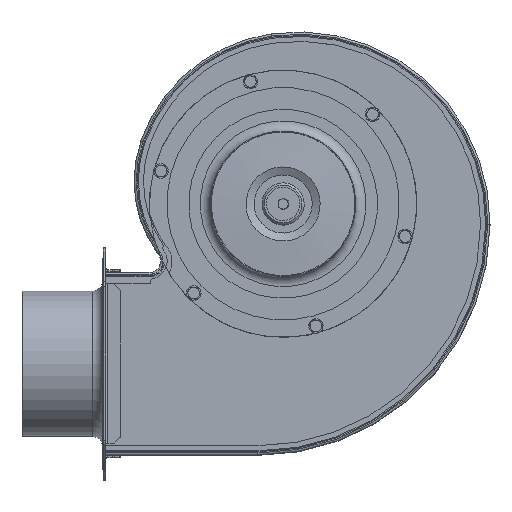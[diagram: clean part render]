
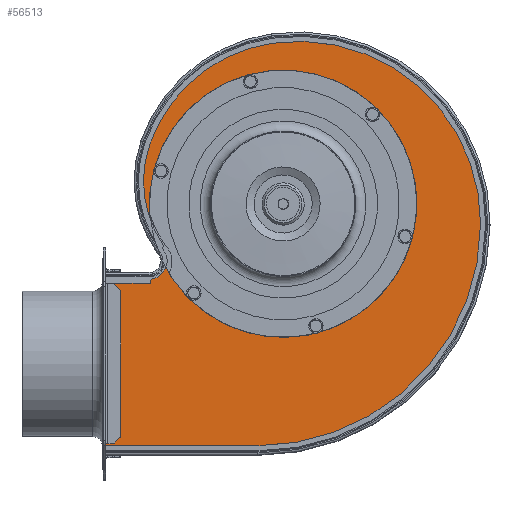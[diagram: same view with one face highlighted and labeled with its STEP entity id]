
A CAD part, top view. The second image highlights one B-rep face of the part: STEP entity #56513.
In plain terms, the highlighted planar face has unit normal (0, 0, 1).
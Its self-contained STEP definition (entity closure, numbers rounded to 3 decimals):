
#1753=LINE('',#83167,#5773);
#1757=LINE('',#83174,#5777);
#1760=LINE('',#83180,#5780);
#5773=VECTOR('',#66398,0.394);
#5777=VECTOR('',#66404,0.394);
#5780=VECTOR('',#66409,0.394);
#9794=PLANE('',#60013);
#11632=FACE_BOUND('',#16091,.T.);
#11633=FACE_BOUND('',#16092,.T.);
#11634=FACE_BOUND('',#16093,.T.);
#11635=FACE_BOUND('',#16094,.T.);
#11636=FACE_BOUND('',#16095,.T.);
#11637=FACE_BOUND('',#16096,.T.);
#11638=FACE_BOUND('',#16097,.T.);
#12738=FACE_OUTER_BOUND('',#16090,.T.);
#16090=EDGE_LOOP('',(#36479,#36480,#36481,#36482,#36483,#36484,#36485,#36486));
#16091=EDGE_LOOP('',(#36487));
#16092=EDGE_LOOP('',(#36488));
#16093=EDGE_LOOP('',(#36489));
#16094=EDGE_LOOP('',(#36490));
#16095=EDGE_LOOP('',(#36491));
#16096=EDGE_LOOP('',(#36492));
#16097=EDGE_LOOP('',(#36493));
#20512=CIRCLE('',#59976,0.14);
#20514=CIRCLE('',#59979,0.14);
#20516=CIRCLE('',#59982,0.14);
#20518=CIRCLE('',#59985,0.14);
#20520=CIRCLE('',#59988,0.14);
#20522=CIRCLE('',#59991,0.14);
#20524=CIRCLE('',#59994,3.228);
#20526=CIRCLE('',#60000,6.169);
#20528=CIRCLE('',#60003,5.071);
#20530=CIRCLE('',#60006,4.291);
#20532=CIRCLE('',#60009,3.177);
#20534=CIRCLE('',#60012,0.433);
#23259=VERTEX_POINT('',#83128);
#23261=VERTEX_POINT('',#83133);
#23263=VERTEX_POINT('',#83138);
#23265=VERTEX_POINT('',#83143);
#23267=VERTEX_POINT('',#83148);
#23269=VERTEX_POINT('',#83153);
#23271=VERTEX_POINT('',#83158);
#23274=VERTEX_POINT('',#83164);
#23275=VERTEX_POINT('',#83166);
#23277=VERTEX_POINT('',#83172);
#23279=VERTEX_POINT('',#83178);
#23281=VERTEX_POINT('',#83184);
#23283=VERTEX_POINT('',#83190);
#23285=VERTEX_POINT('',#83196);
#23287=VERTEX_POINT('',#83202);
#28604=EDGE_CURVE('',#23259,#23259,#20512,.T.);
#28606=EDGE_CURVE('',#23261,#23261,#20514,.T.);
#28608=EDGE_CURVE('',#23263,#23263,#20516,.T.);
#28610=EDGE_CURVE('',#23265,#23265,#20518,.T.);
#28612=EDGE_CURVE('',#23267,#23267,#20520,.T.);
#28614=EDGE_CURVE('',#23269,#23269,#20522,.T.);
#28616=EDGE_CURVE('',#23271,#23271,#20524,.T.);
#28619=EDGE_CURVE('',#23274,#23275,#1753,.T.);
#28623=EDGE_CURVE('',#23277,#23274,#1757,.T.);
#28626=EDGE_CURVE('',#23279,#23277,#1760,.T.);
#28629=EDGE_CURVE('',#23281,#23279,#20526,.T.);
#28632=EDGE_CURVE('',#23283,#23281,#20528,.T.);
#28635=EDGE_CURVE('',#23285,#23283,#20530,.T.);
#28638=EDGE_CURVE('',#23287,#23285,#20532,.T.);
#28640=EDGE_CURVE('',#23275,#23287,#20534,.T.);
#36479=ORIENTED_EDGE('',*,*,#28640,.F.);
#36480=ORIENTED_EDGE('',*,*,#28619,.F.);
#36481=ORIENTED_EDGE('',*,*,#28623,.F.);
#36482=ORIENTED_EDGE('',*,*,#28626,.F.);
#36483=ORIENTED_EDGE('',*,*,#28629,.F.);
#36484=ORIENTED_EDGE('',*,*,#28632,.F.);
#36485=ORIENTED_EDGE('',*,*,#28635,.F.);
#36486=ORIENTED_EDGE('',*,*,#28638,.F.);
#36487=ORIENTED_EDGE('',*,*,#28604,.T.);
#36488=ORIENTED_EDGE('',*,*,#28606,.T.);
#36489=ORIENTED_EDGE('',*,*,#28608,.T.);
#36490=ORIENTED_EDGE('',*,*,#28610,.T.);
#36491=ORIENTED_EDGE('',*,*,#28612,.T.);
#36492=ORIENTED_EDGE('',*,*,#28614,.T.);
#36493=ORIENTED_EDGE('',*,*,#28616,.T.);
#56513=ADVANCED_FACE('',(#12738,#11632,#11633,#11634,#11635,#11636,#11637,
#11638),#9794,.T.);
#59976=AXIS2_PLACEMENT_3D('',#83129,#66356,#66357);
#59979=AXIS2_PLACEMENT_3D('',#83134,#66362,#66363);
#59982=AXIS2_PLACEMENT_3D('',#83139,#66368,#66369);
#59985=AXIS2_PLACEMENT_3D('',#83144,#66374,#66375);
#59988=AXIS2_PLACEMENT_3D('',#83149,#66380,#66381);
#59991=AXIS2_PLACEMENT_3D('',#83154,#66386,#66387);
#59994=AXIS2_PLACEMENT_3D('',#83159,#66392,#66393);
#60000=AXIS2_PLACEMENT_3D('',#83186,#66415,#66416);
#60003=AXIS2_PLACEMENT_3D('',#83192,#66422,#66423);
#60006=AXIS2_PLACEMENT_3D('',#83198,#66429,#66430);
#60009=AXIS2_PLACEMENT_3D('',#83204,#66436,#66437);
#60012=AXIS2_PLACEMENT_3D('',#83207,#66442,#66443);
#60013=AXIS2_PLACEMENT_3D('',#83208,#66444,#66445);
#66356=DIRECTION('center_axis',(0.,0.,
-1.));
#66357=DIRECTION('ref_axis',(-1.,0.,0.));
#66362=DIRECTION('center_axis',(0.,0.,
-1.));
#66363=DIRECTION('ref_axis',(-1.,0.,0.));
#66368=DIRECTION('center_axis',(0.,0.,
-1.));
#66369=DIRECTION('ref_axis',(-1.,0.,0.));
#66374=DIRECTION('center_axis',(0.,0.,
-1.));
#66375=DIRECTION('ref_axis',(-1.,0.,0.));
#66380=DIRECTION('center_axis',(0.,0.,
-1.));
#66381=DIRECTION('ref_axis',(-1.,0.,0.));
#66386=DIRECTION('center_axis',(0.,0.,
-1.));
#66387=DIRECTION('ref_axis',(-1.,0.,0.));
#66392=DIRECTION('center_axis',(0.,0.,
-1.));
#66393=DIRECTION('ref_axis',(-1.,0.,0.));
#66398=DIRECTION('',(1.,0.,0.));
#66404=DIRECTION('',(0.,1.,0.));
#66409=DIRECTION('',(-1.,0.,0.));
#66415=DIRECTION('center_axis',(0.,0.,-1.));
#66416=DIRECTION('ref_axis',(0.,1.,0.));
#66422=DIRECTION('center_axis',(0.,0.,-1.));
#66423=DIRECTION('ref_axis',(-1.,0.007,0.));
#66429=DIRECTION('center_axis',(0.,0.,-1.));
#66430=DIRECTION('ref_axis',(0.141,-0.99,0.));
#66436=DIRECTION('center_axis',(0.,0.,-1.));
#66437=DIRECTION('ref_axis',(0.943,-0.331,0.));
#66442=DIRECTION('center_axis',(0.,0.,1.));
#66443=DIRECTION('ref_axis',(0.208,-0.978,0.));
#66444=DIRECTION('center_axis',(0.,0.,
1.));
#66445=DIRECTION('ref_axis',(1.,0.,0.));
#83128=CARTESIAN_POINT('',(0.747,-3.308,3.819));
#83129=CARTESIAN_POINT('Origin',(0.887,-3.308,3.819));
#83133=CARTESIAN_POINT('',(-3.448,0.887,3.819));
#83134=CARTESIAN_POINT('Origin',(-3.308,0.887,3.819));
#83138=CARTESIAN_POINT('',(2.282,2.422,3.819));
#83139=CARTESIAN_POINT('Origin',(2.422,2.422,3.819));
#83143=CARTESIAN_POINT('',(-1.026,3.308,3.819));
#83144=CARTESIAN_POINT('Origin',(-0.887,3.308,3.819));
#83148=CARTESIAN_POINT('',(-2.562,-2.422,3.819));
#83149=CARTESIAN_POINT('Origin',(-2.422,-2.422,3.819));
#83153=CARTESIAN_POINT('',(3.169,-0.887,3.819));
#83154=CARTESIAN_POINT('Origin',(3.308,-0.887,3.819));
#83158=CARTESIAN_POINT('',(3.228,0.,3.819));
#83159=CARTESIAN_POINT('Origin',(0.,0.,3.819));
#83164=CARTESIAN_POINT('',(-4.812,-1.976,3.819));
#83166=CARTESIAN_POINT('',(-3.546,-1.976,3.819));
#83167=CARTESIAN_POINT('',(-4.812,-1.976,3.819));
#83172=CARTESIAN_POINT('',(-4.812,-6.693,3.819));
#83174=CARTESIAN_POINT('',(-4.812,-6.693,3.819));
#83178=CARTESIAN_POINT('',(-0.681,-6.693,3.819));
#83180=CARTESIAN_POINT('',(-0.681,-6.693,3.819));
#83184=CARTESIAN_POINT('',(5.488,-0.568,3.819));
#83186=CARTESIAN_POINT('Origin',(-0.681,-0.524,
3.819));
#83190=CARTESIAN_POINT('',(-0.3,4.488,3.819));
#83192=CARTESIAN_POINT('Origin',(0.417,-0.532,3.819));
#83196=CARTESIAN_POINT('',(-3.742,1.663,3.819));
#83198=CARTESIAN_POINT('Origin',(0.307,0.24,3.819));
#83202=CARTESIAN_POINT('',(-3.289,-1.293,3.819));
#83204=CARTESIAN_POINT('Origin',(-0.744,0.609,3.819));
#83207=CARTESIAN_POINT('Origin',(-3.636,-1.552,3.819));
#83208=CARTESIAN_POINT('Origin',(-0.145,-1.459,3.819));
